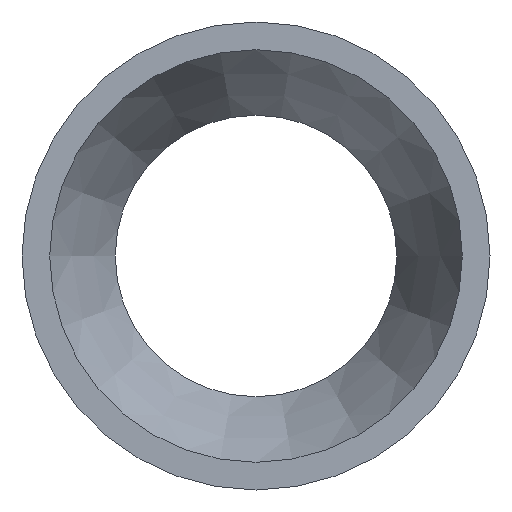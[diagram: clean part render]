
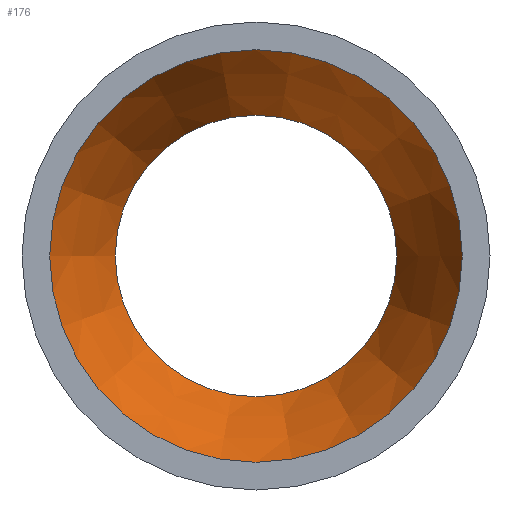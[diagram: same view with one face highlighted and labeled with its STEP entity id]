
A CAD part, left-side view. The second image highlights one B-rep face of the part: STEP entity #176.
In plain terms, the highlighted conical face has half-angle 24.167 degrees and reference radius 92.7 mm.
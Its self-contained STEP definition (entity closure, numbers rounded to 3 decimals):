
#128=CARTESIAN_POINT('',(214.832,75.2,0.));
#129=VERTEX_POINT('',#128);
#136=CARTESIAN_POINT('',(214.832,0.,0.));
#137=DIRECTION('',(1.,0.,0.));
#138=DIRECTION('',(0.,1.,0.));
#139=AXIS2_PLACEMENT_3D('',#136,#137,#138);
#140=CIRCLE('',#139,75.2);
#141=EDGE_CURVE('',#129,#129,#140,.T.);
#152=ORIENTED_EDGE('',*,*,#141,.T.);
#153=CARTESIAN_POINT('',(136.832,110.2,0.));
#154=VERTEX_POINT('',#153);
#155=CARTESIAN_POINT('',(175.832,92.7,0.));
#156=DIRECTION('',(0.912,-0.409,0.));
#157=VECTOR('',#156,92.7);
#158=LINE('',#155,#157);
#159=EDGE_CURVE('',#154,#129,#158,.T.);
#160=ORIENTED_EDGE('',*,*,#159,.F.);
#161=CARTESIAN_POINT('',(136.832,0.,0.));
#162=DIRECTION('',(1.,0.,0.));
#163=DIRECTION('',(0.,1.,0.));
#164=AXIS2_PLACEMENT_3D('',#161,#162,#163);
#165=CIRCLE('',#164,110.2);
#166=EDGE_CURVE('',#154,#154,#165,.T.);
#167=ORIENTED_EDGE('',*,*,#166,.F.);
#168=ORIENTED_EDGE('',*,*,#159,.T.);
#169=EDGE_LOOP('',(#152,#160,#167,#168));
#170=FACE_OUTER_BOUND('',#169,.T.);
#171=CARTESIAN_POINT('',(175.832,0.,0.));
#172=DIRECTION('',(-1.,0.,0.));
#173=DIRECTION('',(0.,1.,0.));
#174=AXIS2_PLACEMENT_3D('',#171,#172,#173);
#175=CONICAL_SURFACE('',#174,92.7,0.422);
#176=ADVANCED_FACE('',(#170),#175,.F.);
